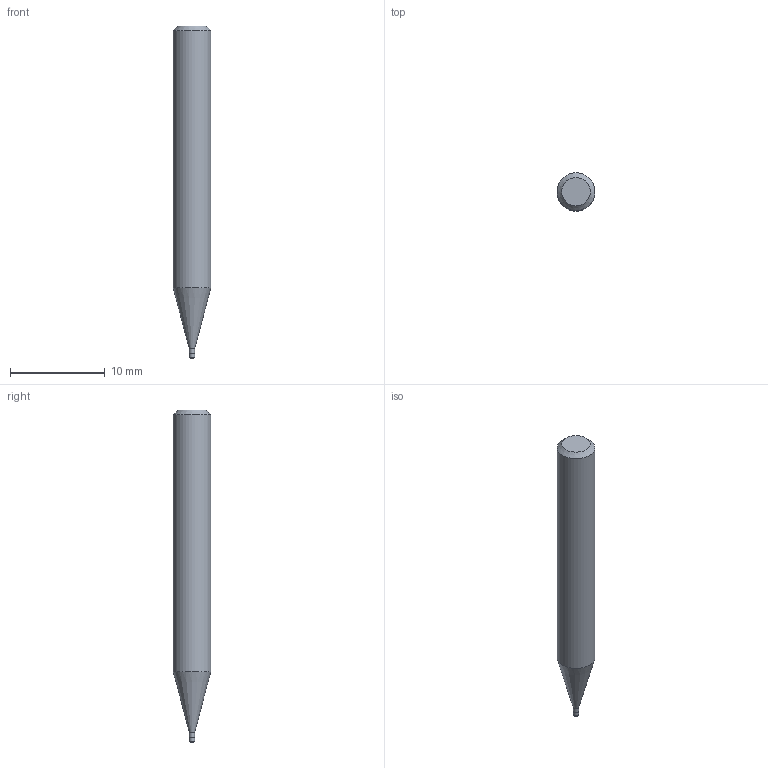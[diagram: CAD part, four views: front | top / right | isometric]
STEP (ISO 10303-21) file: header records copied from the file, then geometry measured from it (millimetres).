
FILE_DESCRIPTION((''),'2;1');
FILE_NAME('C:\Users\nsx150\AppData\Local\Temp\Mastercam 2021\80JYEHYUML\TEMP.step','2022-03-29T14:35:35',(''),(''),'STEP Write','Mastercam 2021 ... CNC Software, Inc.','');
FILE_SCHEMA(('AUTOMOTIVE_DESIGN'));
Length unit declared in the file: millimetre
Products named in the file (1): None
Bounding box: 4 x 4 x 35 mm (x, y, z)
Volume: 376.6 mm3; surface area: 405.3 mm2
Topology: 2 solids, 2 shells, 10 faces, 14 edges, 8 vertices
Faces by surface type: plane 4, cylinder 3, cone 2, torus 1
Full cylindrical faces by diameter (mm): 0.56 x1, 0.6 x1, 4 x1
Entity records: 232 total; most frequent: DIRECTION 40, CARTESIAN_POINT 28, AXIS2_PLACEMENT_3D 20, ORIENTED_EDGE 16, EDGE_LOOP 16, STYLED_ITEM 13, ADVANCED_FACE 10, FACE_BOUND 10
